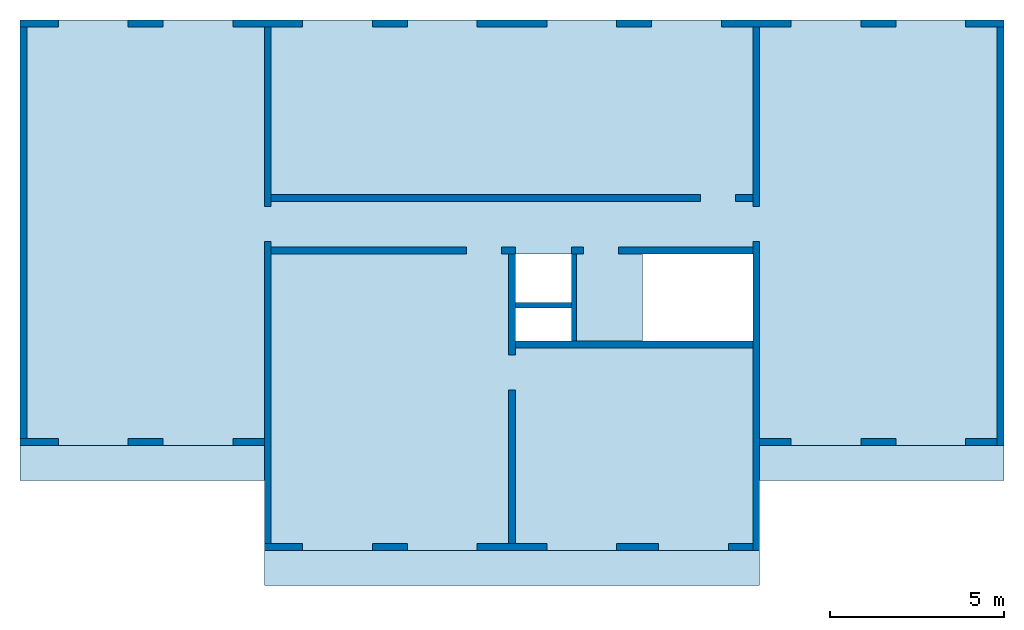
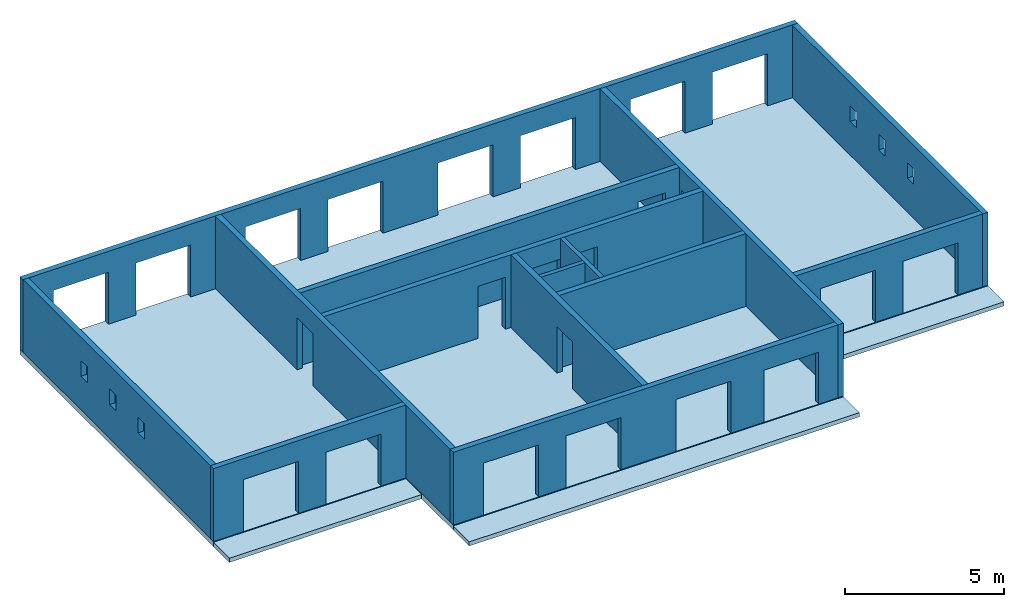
# One storey: 14 walls, 2 slabs, 32 openings.
"""IFC2X3 building model written with IfcOpenShell, lengths in metres."""

from ifc_helpers import new_model, entity, si_unit, converted_unit, derived_unit, direction, frame, frame_2d, origin, origin_2d_with_axis, place, context, subcontext, project, spatial, polyline, rectangle, outline, extrude, material, layer, layer_set, layer_usage, type_object, element, save


model = new_model("IFC2X3")

# Units and contexts
model_context = context("Model", 3, precision=1e-05, world=origin(), true_north=direction((6.12303176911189e-17, 1.0)))
body_context = subcontext(model_context, "Body", "Model", "MODEL_VIEW")
ifc_project = project(units=[si_unit("LENGTHUNIT", "METRE"), si_unit("AREAUNIT", "SQUARE_METRE"), si_unit("VOLUMEUNIT", "CUBIC_METRE"), converted_unit("PLANEANGLEUNIT", "DEGREE", entity("IfcRatioMeasure", 0.0174532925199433), si_unit("PLANEANGLEUNIT", "RADIAN"), dimensions=[0, 0, 0, 0, 0, 0, 0]), si_unit("MASSUNIT", "GRAM", prefix="KILO"), derived_unit("MASSDENSITYUNIT", [(si_unit("MASSUNIT", "GRAM", prefix="KILO"), 1), (si_unit("LENGTHUNIT", "METRE"), -3)]), si_unit("TIMEUNIT", "SECOND"), si_unit("FREQUENCYUNIT", "HERTZ"), si_unit("THERMODYNAMICTEMPERATUREUNIT", "DEGREE_CELSIUS"), derived_unit("THERMALTRANSMITTANCEUNIT", [(si_unit("MASSUNIT", "GRAM", prefix="KILO"), 1), (si_unit("THERMODYNAMICTEMPERATUREUNIT", "KELVIN"), -1), (si_unit("TIMEUNIT", "SECOND"), -3)]), derived_unit("VOLUMETRICFLOWRATEUNIT", [(si_unit("LENGTHUNIT", "METRE"), 3), (si_unit("TIMEUNIT", "SECOND"), -1)]), si_unit("ELECTRICCURRENTUNIT", "AMPERE"), si_unit("ELECTRICVOLTAGEUNIT", "VOLT"), si_unit("POWERUNIT", "WATT"), si_unit("FORCEUNIT", "NEWTON"), si_unit("ILLUMINANCEUNIT", "LUX"), si_unit("LUMINOUSFLUXUNIT", "LUMEN"), si_unit("LUMINOUSINTENSITYUNIT", "CANDELA"), derived_unit("USERDEFINED", [(si_unit("MASSUNIT", "GRAM", prefix="KILO"), -1), (si_unit("LENGTHUNIT", "METRE"), -2), (si_unit("TIMEUNIT", "SECOND"), 3), (si_unit("LUMINOUSFLUXUNIT", "LUMEN"), 1)]), derived_unit("LINEARVELOCITYUNIT", [(si_unit("LENGTHUNIT", "METRE"), 1), (si_unit("TIMEUNIT", "SECOND"), -1)]), si_unit("PRESSUREUNIT", "PASCAL"), derived_unit("USERDEFINED", [(si_unit("LENGTHUNIT", "METRE"), -2), (si_unit("MASSUNIT", "GRAM", prefix="KILO"), 1), (si_unit("TIMEUNIT", "SECOND"), -2)])], contexts=[model_context])

# Site, building, storey
site_placement = place(None, origin())
site = spatial("IfcSite", under=ifc_project, at=site_placement, Name="Default", CompositionType="ELEMENT")
building_placement = place(site_placement, origin())
building = spatial("IfcBuilding", under=site, at=building_placement, CompositionType="ELEMENT")
storey_placement = place(building_placement, frame((0.0, 0.0, 15.0)))
storey = spatial("IfcBuildingStorey", under=building, at=storey_placement, Name="R+5", CompositionType="ELEMENT", Elevation=15.0)

# Slab, openings
ifc_material_1 = material(Name="Béton - Coulé sur place - Béton20")
ifc_layer_1 = layer(ifc_material_1, 0.2)
ifc_layer_set_1 = layer_set([ifc_layer_1], Name="Sol:Dalle pleine 200 mm")
ifc_layer_usage_1 = layer_usage(ifc_layer_set_1, "AXIS3", "POSITIVE", 0.0)
slab_1_placement = place(storey_placement, frame((-12.3073360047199, -6.13818985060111, 0.0)))
slab_1 = element("IfcSlab", 1, at=slab_1_placement, inside=storey, material=ifc_layer_usage_1, Name="Sol:Dalle pleine 200 mm", ObjectType="Sol:Dalle pleine 200 mm", PredefinedType="FLOOR", context=body_context, shape_type="SweptSolid", body=[
    extrude(outline(polyline([(-14.1, 7.59999999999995), (-14.1, -4.60000000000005), (-7.1, -4.60000000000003), (-7.09999999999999, -7.60000000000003), (7.10000000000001, -7.59999999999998), (7.10000000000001, -4.59999999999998), (14.1, -4.59999999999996), (14.1, 7.60000000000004), (-14.1, 7.59999999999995)])), frame((14.1, 7.60000000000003, 0.2), z_axis=(0.0, 0.0, -1.0), x_axis=(-1.0, 0.0, 0.0)), (0.0, 0.0, 1.0), 0.2),
])
opening_1_placement = place(slab_1_placement, frame((15.0, 7.80000000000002, 0.2)))
element("IfcOpeningElement", 2, at=opening_1_placement, cuts=slab_1, Name="Sol:Dalle pleine 200 mm:2", ObjectType="Opening", context=body_context, shape_type="SweptSolid", body=[
    extrude(rectangle(XDim=1.4, YDim=1.6, at=origin_2d_with_axis()), frame((0.0, 0.0, 0.0), z_axis=(0.0, 0.0, -1.0), x_axis=(0.0, -1.0, 0.0)), (0.0, 0.0, 1.0), 0.2),
])
opening_2_placement = place(slab_1_placement, frame((15.0, 6.47500000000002, 0.2)))
element("IfcOpeningElement", 3, at=opening_2_placement, cuts=slab_1, Name="Sol:Dalle pleine 200 mm:3", ObjectType="Opening", context=body_context, shape_type="SweptSolid", body=[
    extrude(rectangle(XDim=0.95, YDim=1.6, at=origin_2d_with_axis()), frame((0.0, 0.0, 0.0), z_axis=(0.0, 0.0, -1.0), x_axis=(0.0, -1.0, 0.0)), (0.0, 0.0, 1.0), 0.2),
])
opening_3_placement = place(slab_1_placement, frame((19.42, 7.25, 0.2)))
element("IfcOpeningElement", 4, at=opening_3_placement, cuts=slab_1, Name="Sol:Dalle pleine 200 mm:4", ObjectType="Opening", context=body_context, shape_type="SweptSolid", body=[
    extrude(rectangle(XDim=3.16, YDim=2.49999999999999, at=origin_2d_with_axis()), frame((0.0, 0.0, 0.0), z_axis=(0.0, 0.0, -1.0), x_axis=(1.0, 0.0, 0.0)), (0.0, 0.0, 1.0), 0.2),
])

# Slab
ifc_layer_2 = layer(ifc_material_1, 0.16)
ifc_layer_set_2 = layer_set([ifc_layer_2], Name="Sol:Balcon 160 mm")
ifc_layer_usage_2 = layer_usage(ifc_layer_set_2, "AXIS3", "POSITIVE", 0.0)
slab_2_placement = place(storey_placement, origin())
element("IfcSlab", 5, at=slab_2_placement, inside=storey, material=ifc_layer_usage_2, Name="Sol:Balcon 160 mm", ObjectType="Sol:Balcon 160 mm", PredefinedType="FLOOR", context=body_context, shape_type="SweptSolid", body=[
    extrude(outline(polyline([(-0.0825000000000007, -0.5), (0.0874999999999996, -0.5), (0.0774999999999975, 0.5), (-0.0825000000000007, 0.5), (-0.0825000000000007, -0.5)])), frame((8.89266399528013, -3.63818985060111, 0.0825000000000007), z_axis=(1.0, 0.0, 0.0), x_axis=(0.0, 0.0, 1.0)), (0.0, 0.0, 1.0), 7.0),
    extrude(outline(polyline([(-0.0825000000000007, -0.5), (0.0874999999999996, -0.5), (0.0774999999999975, 0.5), (-0.0825000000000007, 0.5), (-0.0825000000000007, -0.5)])), frame((-12.3073360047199, -3.63818985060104, 0.0825000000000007), z_axis=(1.0, 0.0, 0.0), x_axis=(0.0, 0.0, 1.0)), (0.0, 0.0, 1.0), 7.0),
    extrude(outline(polyline([(-0.0825000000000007, -0.5), (0.0874999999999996, -0.5), (0.0774999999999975, 0.5), (-0.0825000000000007, 0.5), (-0.0825000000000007, -0.5)])), frame((-5.30733600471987, -6.63818985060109, 0.0825000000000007), z_axis=(1.0, 0.0, 0.0), x_axis=(0.0, 0.0, 1.0)), (0.0, 0.0, 1.0), 14.2),
])

# Wall, openings
ifc_layer_3 = layer(ifc_material_1, 0.2)
ifc_layer_set_3 = layer_set([ifc_layer_3], Name="Mur de base:Générique - 200 mm")
ifc_layer_usage_3 = layer_usage(ifc_layer_set_3, "AXIS2", "NEGATIVE", 0.1)
wall_type_1 = type_object("IfcWallType", Name="Mur de base:Générique - 200 mm", PredefinedType="STANDARD", material=ifc_layer_set_3)
wall_1_placement = place(storey_placement, frame((-12.3073360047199, 8.96181014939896, 0.2)))
wall_1 = element("IfcWallStandardCase", 6, at=wall_1_placement, inside=storey, type_object=wall_type_1, material=ifc_layer_usage_3, Name="Mur de base:Générique - 200 mm", ObjectType="Mur de base:Générique - 200 mm:1044", context=body_context, shape_type="SweptSolid", body=[
    extrude(rectangle(XDim=28.2, YDim=0.2, at=frame_2d((14.1, 3.19189119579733e-16), x_axis=(-1.0, 0.0))), origin(), (0.0, 0.0, 1.0), 2.80000000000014),
])
opening_4_placement = place(wall_1_placement, frame((12.3073360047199, -8.96181014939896, -0.199999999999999)))
element("IfcOpeningElement", 7, at=opening_4_placement, cuts=wall_1, Name="Mur de base:Générique - 200 mm", ObjectType="Opening", context=body_context, shape_type="SweptSolid", body=[
    extrude(rectangle(XDim=2.0, YDim=2.0, at=frame_2d((2.16493489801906e-15, 0.0), x_axis=(1.0, 0.0))), frame((13.7926639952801, 7.53781014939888, 1.2), z_axis=(0.0, 1.0, 0.0), x_axis=(0.0, 0.0, -1.0)), (0.0, 0.0, 1.0), 3.048),
])
opening_5_placement = place(wall_1_placement, frame((12.3073360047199, -8.96181014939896, -0.199999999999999)))
element("IfcOpeningElement", 8, at=opening_5_placement, cuts=wall_1, Name="Mur de base:Générique - 200 mm", ObjectType="Opening", context=body_context, shape_type="SweptSolid", body=[
    extrude(rectangle(XDim=2.0, YDim=2.0, at=frame_2d((0.0, 0.0), x_axis=(0.0, 1.0))), frame((10.7926639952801, 7.33781014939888, 1.2), z_axis=(0.0, 1.0, 0.0), x_axis=(1.0, 0.0, 0.0)), (0.0, 0.0, 1.0), 3.048),
])
opening_6_placement = place(wall_1_placement, frame((12.3073360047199, -8.96181014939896, -0.199999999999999)))
element("IfcOpeningElement", 9, at=opening_6_placement, cuts=wall_1, Name="Mur de base:Générique - 200 mm", ObjectType="Opening", context=body_context, shape_type="SweptSolid", body=[
    extrude(rectangle(XDim=2.0, YDim=2.0, at=frame_2d((2.22044604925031e-15, 0.0), x_axis=(1.0, 0.0))), frame((-10.2073360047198, 7.53781014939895, 1.2), z_axis=(0.0, 1.0, 0.0), x_axis=(0.0, 0.0, -1.0)), (0.0, 0.0, 1.0), 3.048),
])
opening_7_placement = place(wall_1_placement, frame((12.3073360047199, -8.96181014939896, -0.199999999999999)))
element("IfcOpeningElement", 10, at=opening_7_placement, cuts=wall_1, Name="Mur de base:Générique - 200 mm", ObjectType="Opening", context=body_context, shape_type="SweptSolid", body=[
    extrude(rectangle(XDim=2.0, YDim=2.0, at=frame_2d((2.22044604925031e-15, 0.0), x_axis=(1.0, 0.0))), frame((-7.20733600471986, 7.53781014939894, 1.2), z_axis=(0.0, 1.0, 0.0), x_axis=(0.0, 0.0, -1.0)), (0.0, 0.0, 1.0), 3.048),
])
opening_8_placement = place(wall_1_placement, frame((12.3073360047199, -8.96181014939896, -0.199999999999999)))
element("IfcOpeningElement", 11, at=opening_8_placement, cuts=wall_1, Name="Mur de base:Générique - 200 mm", ObjectType="Opening", context=body_context, shape_type="SweptSolid", body=[
    extrude(rectangle(XDim=2.0, YDim=2.0, at=frame_2d((2.22044604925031e-15, 2.22044604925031e-16), x_axis=(1.0, 0.0))), frame((-3.20733600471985, 7.53781014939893, 1.2), z_axis=(0.0, 1.0, 0.0), x_axis=(0.0, 0.0, -1.0)), (0.0, 0.0, 1.0), 3.048),
])
opening_9_placement = place(wall_1_placement, frame((12.3073360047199, -8.96181014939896, -0.199999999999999)))
element("IfcOpeningElement", 12, at=opening_9_placement, cuts=wall_1, Name="Mur de base:Générique - 200 mm", ObjectType="Opening", context=body_context, shape_type="SweptSolid", body=[
    extrude(rectangle(XDim=2.0, YDim=2.0, at=frame_2d((-4.9960036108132e-16, 0.0), x_axis=(0.0, 1.0))), frame((6.79266399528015, 7.3378101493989, 1.2), z_axis=(0.0, 1.0, 0.0), x_axis=(1.0, 0.0, 0.0)), (0.0, 0.0, 1.0), 3.048),
])
opening_10_placement = place(wall_1_placement, frame((12.3073360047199, -8.96181014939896, -0.199999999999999)))
element("IfcOpeningElement", 13, at=opening_10_placement, cuts=wall_1, Name="Mur de base:Générique - 200 mm", ObjectType="Opening", context=body_context, shape_type="SweptSolid", body=[
    extrude(rectangle(XDim=2.0, YDim=2.0, at=frame_2d((-2.22044604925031e-16, 0.0), x_axis=(0.0, 1.0))), frame((3.79266399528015, 7.33781014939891, 1.2), z_axis=(0.0, 1.0, 0.0), x_axis=(1.0, 0.0, 0.0)), (0.0, 0.0, 1.0), 3.048),
])
opening_11_placement = place(wall_1_placement, frame((12.3073360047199, -8.96181014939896, -0.199999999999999)))
element("IfcOpeningElement", 14, at=opening_11_placement, cuts=wall_1, Name="Mur de base:Générique - 200 mm", ObjectType="Opening", context=body_context, shape_type="SweptSolid", body=[
    extrude(rectangle(XDim=2.0, YDim=2.0, at=frame_2d((0.0, 0.0), x_axis=(0.0, 1.0))), frame((-0.207336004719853, 7.33781014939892, 1.2), z_axis=(0.0, 1.0, 0.0), x_axis=(1.0, 0.0, 0.0)), (0.0, 0.0, 1.0), 3.048),
])

ifc_layer_usage_4 = layer_usage(ifc_layer_set_3, "AXIS2", "NEGATIVE", 0.1)
wall_2_placement = place(storey_placement, frame((15.7926639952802, 8.86181014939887, 0.2), z_axis=(0.0, 0.0, 1.0), x_axis=(0.0, -1.0, 0.0)))
wall_2 = element("IfcWallStandardCase", 15, at=wall_2_placement, inside=storey, type_object=wall_type_1, material=ifc_layer_usage_4, Name="Mur de base:Générique - 200 mm", ObjectType="Mur de base:Générique - 200 mm:1044", context=body_context, shape_type="SweptSolid", body=[
    extrude(rectangle(XDim=12.0, YDim=0.200000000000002, at=frame_2d((6.0, 0.0), x_axis=(-1.0, 0.0))), origin(), (0.0, 0.0, 1.0), 2.80000000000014),
])
opening_12_placement = place(wall_2_placement, frame((8.86181014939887, -15.7926639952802, -0.199999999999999), z_axis=(0.0, 0.0, 1.0), x_axis=(0.0, 1.0, 0.0)))
element("IfcOpeningElement", 16, at=opening_12_placement, cuts=wall_2, Name="Mur de base:Générique - 200 mm", ObjectType="Opening", context=body_context, shape_type="SweptSolid", body=[
    extrude(rectangle(XDim=0.6, YDim=0.4, at=frame_2d((0.0, 0.0), x_axis=(0.0, 1.0))), frame((14.1686639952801, 3.21181014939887, 1.8), z_axis=(1.0, 0.0, 0.0), x_axis=(0.0, -1.0, 0.0)), (0.0, 0.0, 1.0), 3.048),
])
opening_13_placement = place(wall_2_placement, frame((8.86181014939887, -15.7926639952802, -0.199999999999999), z_axis=(0.0, 0.0, 1.0), x_axis=(0.0, 1.0, 0.0)))
element("IfcOpeningElement", 17, at=opening_13_placement, cuts=wall_2, Name="Mur de base:Générique - 200 mm", ObjectType="Opening", context=body_context, shape_type="SweptSolid", body=[
    extrude(rectangle(XDim=0.6, YDim=0.400000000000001, at=frame_2d((-8.18789480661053e-16, 0.0), x_axis=(0.0, 1.0))), frame((14.1686639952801, 5.01181014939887, 1.8), z_axis=(1.0, 0.0, 0.0), x_axis=(0.0, -1.0, 0.0)), (0.0, 0.0, 1.0), 3.048),
])
opening_14_placement = place(wall_2_placement, frame((8.86181014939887, -15.7926639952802, -0.199999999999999), z_axis=(0.0, 0.0, 1.0), x_axis=(0.0, 1.0, 0.0)))
element("IfcOpeningElement", 18, at=opening_14_placement, cuts=wall_2, Name="Mur de base:Générique - 200 mm", ObjectType="Opening", context=body_context, shape_type="SweptSolid", body=[
    extrude(rectangle(XDim=0.6, YDim=0.4, at=frame_2d((-6.93889390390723e-17, 0.0), x_axis=(0.0, 1.0))), frame((14.1686639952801, 1.41181014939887, 1.8), z_axis=(1.0, 0.0, 0.0), x_axis=(0.0, -1.0, 0.0)), (0.0, 0.0, 1.0), 3.048),
])

ifc_layer_usage_5 = layer_usage(ifc_layer_set_3, "AXIS2", "NEGATIVE", 0.1)
wall_3_placement = place(storey_placement, frame((15.6926639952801, -3.03818985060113, 0.2), z_axis=(0.0, 0.0, 1.0), x_axis=(-1.0, 0.0, 0.0)))
wall_3 = element("IfcWallStandardCase", 19, at=wall_3_placement, inside=storey, type_object=wall_type_1, material=ifc_layer_usage_5, Name="Mur de base:Générique - 200 mm", ObjectType="Mur de base:Générique - 200 mm:1044", context=body_context, shape_type="SweptSolid", body=[
    extrude(rectangle(XDim=6.8, YDim=0.2, at=frame_2d((3.4, 2.22044604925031e-16), x_axis=(-1.0, 0.0))), origin(), (0.0, 0.0, 1.0), 2.80000000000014),
])
opening_15_placement = place(wall_3_placement, frame((15.6926639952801, -3.03818985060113, -0.199999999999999), z_axis=(0.0, 0.0, 1.0), x_axis=(-1.0, 0.0, 0.0)))
element("IfcOpeningElement", 20, at=opening_15_placement, cuts=wall_3, Name="Mur de base:Générique - 200 mm", ObjectType="Opening", context=body_context, shape_type="SweptSolid", body=[
    extrude(rectangle(XDim=2.0, YDim=2.0, at=frame_2d((0.0, 0.0), x_axis=(0.0, 1.0))), frame((10.7926639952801, -1.41418985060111, 1.2), z_axis=(0.0, -1.0, 0.0), x_axis=(-1.0, 0.0, 0.0)), (0.0, 0.0, 1.0), 3.048),
])
opening_16_placement = place(wall_3_placement, frame((15.6926639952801, -3.03818985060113, -0.199999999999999), z_axis=(0.0, 0.0, 1.0), x_axis=(-1.0, 0.0, 0.0)))
element("IfcOpeningElement", 21, at=opening_16_placement, cuts=wall_3, Name="Mur de base:Générique - 200 mm", ObjectType="Opening", context=body_context, shape_type="SweptSolid", body=[
    extrude(rectangle(XDim=2.0, YDim=2.0, at=frame_2d((0.0, 0.0), x_axis=(0.0, 1.0))), frame((13.7926639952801, -1.41418985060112, 1.2), z_axis=(0.0, -1.0, 0.0), x_axis=(-1.0, 0.0, 0.0)), (0.0, 0.0, 1.0), 3.048),
])

# Wall, opening
ifc_layer_usage_6 = layer_usage(ifc_layer_set_3, "AXIS2", "NEGATIVE", 0.1)
wall_4_placement = place(storey_placement, frame((8.79266399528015, 8.86181014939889, 0.2), z_axis=(0.0, 0.0, 1.0), x_axis=(0.0, -1.0, 0.0)))
wall_4 = element("IfcWallStandardCase", 22, at=wall_4_placement, inside=storey, type_object=wall_type_1, material=ifc_layer_usage_6, Name="Mur de base:Générique - 200 mm", ObjectType="Mur de base:Générique - 200 mm:1044", context=body_context, shape_type="SweptSolid", body=[
    extrude(rectangle(XDim=15.0, YDim=0.2, at=frame_2d((7.5, 0.0), x_axis=(-1.0, 0.0))), origin(), (0.0, 0.0, 1.0), 2.80000000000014),
])
opening_17_placement = place(wall_4_placement, frame((8.86181014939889, -8.79266399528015, -0.199999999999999), z_axis=(0.0, 0.0, 1.0), x_axis=(0.0, 1.0, 0.0)))
element("IfcOpeningElement", 23, at=opening_17_placement, cuts=wall_4, Name="Mur de base:Générique - 200 mm", ObjectType="Opening", context=body_context, shape_type="SweptSolid", body=[
    extrude(rectangle(XDim=2.0, YDim=1.0, at=frame_2d((-2.4980018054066e-16, 0.0), x_axis=(0.0, 1.0))), frame((7.16866399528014, 3.2118101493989, 1.2), z_axis=(1.0, 0.0, 0.0), x_axis=(0.0, -1.0, 0.0)), (0.0, 0.0, 1.0), 3.048),
])

# Wall, openings
ifc_layer_usage_7 = layer_usage(ifc_layer_set_3, "AXIS2", "NEGATIVE", 0.1)
wall_5_placement = place(storey_placement, frame((8.69266399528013, -6.03818985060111, 0.2), z_axis=(0.0, 0.0, 1.0), x_axis=(-1.0, 0.0, 0.0)))
wall_5 = element("IfcWallStandardCase", 24, at=wall_5_placement, inside=storey, type_object=wall_type_1, material=ifc_layer_usage_7, Name="Mur de base:Générique - 200 mm", ObjectType="Mur de base:Générique - 200 mm:1044", context=body_context, shape_type="SweptSolid", body=[
    extrude(rectangle(XDim=14.0, YDim=0.2, at=frame_2d((7.0, 0.0), x_axis=(-1.0, 0.0))), origin(), (0.0, 0.0, 1.0), 2.80000000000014),
])
opening_18_placement = place(wall_5_placement, frame((8.69266399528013, -6.03818985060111, -0.199999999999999), z_axis=(0.0, 0.0, 1.0), x_axis=(-1.0, 0.0, 0.0)))
element("IfcOpeningElement", 25, at=opening_18_placement, cuts=wall_5, Name="Mur de base:Générique - 200 mm", ObjectType="Opening", context=body_context, shape_type="SweptSolid", body=[
    extrude(rectangle(XDim=2.0, YDim=2.0, at=frame_2d((2.16493489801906e-15, 1.11022302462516e-16), x_axis=(1.0, 0.0))), frame((-3.20733600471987, -4.61418985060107, 1.2), z_axis=(0.0, -1.0, 0.0), x_axis=(0.0, 0.0, -1.0)), (0.0, 0.0, 1.0), 3.048),
])
opening_19_placement = place(wall_5_placement, frame((8.69266399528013, -6.03818985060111, -0.199999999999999), z_axis=(0.0, 0.0, 1.0), x_axis=(-1.0, 0.0, 0.0)))
element("IfcOpeningElement", 26, at=opening_19_placement, cuts=wall_5, Name="Mur de base:Générique - 200 mm", ObjectType="Opening", context=body_context, shape_type="SweptSolid", body=[
    extrude(rectangle(XDim=2.0, YDim=2.0, at=frame_2d((2.16493489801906e-15, 0.0), x_axis=(1.0, 0.0))), frame((-0.207336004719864, -4.61418985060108, 1.2), z_axis=(0.0, -1.0, 0.0), x_axis=(0.0, 0.0, -1.0)), (0.0, 0.0, 1.0), 3.048),
])
opening_20_placement = place(wall_5_placement, frame((8.69266399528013, -6.03818985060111, -0.199999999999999), z_axis=(0.0, 0.0, 1.0), x_axis=(-1.0, 0.0, 0.0)))
element("IfcOpeningElement", 27, at=opening_20_placement, cuts=wall_5, Name="Mur de base:Générique - 200 mm", ObjectType="Opening", context=body_context, shape_type="SweptSolid", body=[
    extrude(rectangle(XDim=2.0, YDim=2.0, at=frame_2d((2.16493489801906e-15, 2.22044604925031e-16), x_axis=(1.0, 0.0))), frame((3.79266399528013, -4.61418985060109, 1.2), z_axis=(0.0, -1.0, 0.0), x_axis=(0.0, 0.0, -1.0)), (0.0, 0.0, 1.0), 3.048),
])
opening_21_placement = place(wall_5_placement, frame((8.69266399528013, -6.03818985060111, -0.199999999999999), z_axis=(0.0, 0.0, 1.0), x_axis=(-1.0, 0.0, 0.0)))
element("IfcOpeningElement", 28, at=opening_21_placement, cuts=wall_5, Name="Mur de base:Générique - 200 mm", ObjectType="Opening", context=body_context, shape_type="SweptSolid", body=[
    extrude(rectangle(XDim=2.0, YDim=2.0, at=frame_2d((2.22044604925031e-15, 0.0), x_axis=(1.0, 0.0))), frame((6.99266399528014, -4.6141898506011, 1.2), z_axis=(0.0, -1.0, 0.0), x_axis=(0.0, 0.0, -1.0)), (0.0, 0.0, 1.0), 3.048),
])

# Wall, opening
ifc_layer_usage_8 = layer_usage(ifc_layer_set_3, "AXIS2", "NEGATIVE", 0.1)
wall_6_placement = place(storey_placement, frame((-5.20733600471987, -5.93818985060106, 0.2), z_axis=(0.0, 0.0, 1.0), x_axis=(0.0, 1.0, 0.0)))
wall_6 = element("IfcWallStandardCase", 29, at=wall_6_placement, inside=storey, type_object=wall_type_1, material=ifc_layer_usage_8, Name="Mur de base:Générique - 200 mm", ObjectType="Mur de base:Générique - 200 mm:1044", context=body_context, shape_type="SweptSolid", body=[
    extrude(rectangle(XDim=14.8, YDim=0.2, at=frame_2d((7.4, -1.66533453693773e-16), x_axis=(-1.0, 0.0))), origin(), (0.0, 0.0, 1.0), 2.80000000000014),
])
opening_22_placement = place(wall_6_placement, frame((5.93818985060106, -5.20733600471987, -0.199999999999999), z_axis=(0.0, 0.0, 1.0), x_axis=(0.0, -1.0, 0.0)))
element("IfcOpeningElement", 30, at=opening_22_placement, cuts=wall_6, Name="Mur de base:Générique - 200 mm", ObjectType="Opening", context=body_context, shape_type="SweptSolid", body=[
    extrude(rectangle(XDim=2.0, YDim=1.0, at=frame_2d((2.16493489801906e-15, -2.4980018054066e-16), x_axis=(1.0, 0.0))), frame((-3.78333600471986, 3.21181014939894, 1.2), z_axis=(-1.0, 0.0, 0.0), x_axis=(0.0, 0.0, -1.0)), (0.0, 0.0, 1.0), 3.048),
])

# Wall, openings
ifc_layer_usage_9 = layer_usage(ifc_layer_set_3, "AXIS2", "NEGATIVE", 0.1)
wall_7_placement = place(storey_placement, frame((-5.30733600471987, -3.03818985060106, 0.2), z_axis=(0.0, 0.0, 1.0), x_axis=(-1.0, 0.0, 0.0)))
wall_7 = element("IfcWallStandardCase", 31, at=wall_7_placement, inside=storey, type_object=wall_type_1, material=ifc_layer_usage_9, Name="Mur de base:Générique - 200 mm", ObjectType="Mur de base:Générique - 200 mm:1044", context=body_context, shape_type="SweptSolid", body=[
    extrude(rectangle(XDim=7.0, YDim=0.2, at=frame_2d((3.5, 0.0), x_axis=(-1.0, 0.0))), origin(), (0.0, 0.0, 1.0), 2.80000000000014),
])
opening_23_placement = place(wall_7_placement, frame((-5.30733600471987, -3.03818985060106, -0.199999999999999), z_axis=(0.0, 0.0, 1.0), x_axis=(-1.0, 0.0, 0.0)))
element("IfcOpeningElement", 32, at=opening_23_placement, cuts=wall_7, Name="Mur de base:Générique - 200 mm", ObjectType="Opening", context=body_context, shape_type="SweptSolid", body=[
    extrude(rectangle(XDim=2.0, YDim=2.0, at=frame_2d((1.0547118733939e-15, 0.0), x_axis=(0.0, 1.0))), frame((-10.2073360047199, -1.41418985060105, 1.2), z_axis=(0.0, -1.0, 0.0), x_axis=(-1.0, 0.0, 0.0)), (0.0, 0.0, 1.0), 3.048),
])
opening_24_placement = place(wall_7_placement, frame((-5.30733600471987, -3.03818985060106, -0.199999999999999), z_axis=(0.0, 0.0, 1.0), x_axis=(-1.0, 0.0, 0.0)))
element("IfcOpeningElement", 33, at=opening_24_placement, cuts=wall_7, Name="Mur de base:Générique - 200 mm", ObjectType="Opening", context=body_context, shape_type="SweptSolid", body=[
    extrude(rectangle(XDim=2.0, YDim=2.0, at=frame_2d((-4.9960036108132e-16, 0.0), x_axis=(0.0, 1.0))), frame((-7.20733600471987, -1.41418985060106, 1.2), z_axis=(0.0, -1.0, 0.0), x_axis=(-1.0, 0.0, 0.0)), (0.0, 0.0, 1.0), 3.048),
])

ifc_layer_usage_10 = layer_usage(ifc_layer_set_3, "AXIS2", "NEGATIVE", 0.1)
wall_8_placement = place(storey_placement, frame((-12.2073360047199, -2.93818985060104, 0.2), z_axis=(0.0, 0.0, 1.0), x_axis=(0.0, 1.0, 0.0)))
wall_8 = element("IfcWallStandardCase", 34, at=wall_8_placement, inside=storey, type_object=wall_type_1, material=ifc_layer_usage_10, Name="Mur de base:Générique - 200 mm", ObjectType="Mur de base:Générique - 200 mm:1044", context=body_context, shape_type="SweptSolid", body=[
    extrude(rectangle(XDim=11.8, YDim=0.199999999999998, at=frame_2d((5.9, -1.59594559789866e-16), x_axis=(-1.0, 0.0))), origin(), (0.0, 0.0, 1.0), 2.80000000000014),
])
opening_25_placement = place(wall_8_placement, frame((2.93818985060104, -12.2073360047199, -0.199999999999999), z_axis=(0.0, 0.0, 1.0), x_axis=(0.0, -1.0, 0.0)))
element("IfcOpeningElement", 35, at=opening_25_placement, cuts=wall_8, Name="Mur de base:Générique - 200 mm", ObjectType="Opening", context=body_context, shape_type="SweptSolid", body=[
    extrude(rectangle(XDim=0.600000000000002, YDim=0.4, at=origin_2d_with_axis()), frame((-10.7833360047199, 3.21181014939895, 1.8), z_axis=(-1.0, 0.0, 0.0), x_axis=(0.0, 0.0, -1.0)), (0.0, 0.0, 1.0), 3.048),
])
opening_26_placement = place(wall_8_placement, frame((2.93818985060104, -12.2073360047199, -0.199999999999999), z_axis=(0.0, 0.0, 1.0), x_axis=(0.0, -1.0, 0.0)))
element("IfcOpeningElement", 36, at=opening_26_placement, cuts=wall_8, Name="Mur de base:Générique - 200 mm", ObjectType="Opening", context=body_context, shape_type="SweptSolid", body=[
    extrude(rectangle(XDim=0.600000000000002, YDim=0.400000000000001, at=frame_2d((0.0, 2.77555756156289e-16), x_axis=(1.0, 0.0))), frame((-10.7833360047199, 5.01181014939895, 1.8), z_axis=(-1.0, 0.0, 0.0), x_axis=(0.0, 0.0, -1.0)), (0.0, 0.0, 1.0), 3.048),
])
opening_27_placement = place(wall_8_placement, frame((2.93818985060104, -12.2073360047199, -0.199999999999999), z_axis=(0.0, 0.0, 1.0), x_axis=(0.0, -1.0, 0.0)))
element("IfcOpeningElement", 37, at=opening_27_placement, cuts=wall_8, Name="Mur de base:Générique - 200 mm", ObjectType="Opening", context=body_context, shape_type="SweptSolid", body=[
    extrude(rectangle(XDim=0.600000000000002, YDim=0.4, at=frame_2d((0.0, -6.93889390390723e-17), x_axis=(1.0, 0.0))), frame((-10.7833360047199, 1.41181014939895, 1.8), z_axis=(-1.0, 0.0, 0.0), x_axis=(0.0, 0.0, -1.0)), (0.0, 0.0, 1.0), 3.048),
])

# Wall, opening
ifc_layer_usage_11 = layer_usage(ifc_layer_set_3, "AXIS2", "NEGATIVE", 0.1)
wall_9_placement = place(storey_placement, frame((-5.10733600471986, 3.96181014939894, 0.2)))
wall_9 = element("IfcWallStandardCase", 38, at=wall_9_placement, inside=storey, type_object=wall_type_1, material=ifc_layer_usage_11, Name="Mur de base:Générique - 200 mm", ObjectType="Mur de base:Générique - 200 mm:1044", context=body_context, shape_type="SweptSolid", body=[
    extrude(rectangle(XDim=13.8, YDim=0.2, at=frame_2d((6.9, 2.22044604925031e-16), x_axis=(-1.0, 0.0))), origin(), (0.0, 0.0, 1.0), 2.80000000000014),
])
opening_28_placement = place(wall_9_placement, frame((5.10733600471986, -3.96181014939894, -0.199999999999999)))
element("IfcOpeningElement", 39, at=opening_28_placement, cuts=wall_9, Name="Mur de base:Générique - 200 mm", ObjectType="Opening", context=body_context, shape_type="SweptSolid", body=[
    extrude(rectangle(XDim=2.0, YDim=1.0, at=frame_2d((2.16493489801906e-15, 1.08246744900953e-15), x_axis=(1.0, 0.0))), frame((7.69266399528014, 2.5378101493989, 1.2), z_axis=(0.0, 1.0, 0.0), x_axis=(0.0, 0.0, -1.0)), (0.0, 0.0, 1.0), 3.048),
])

# Wall, openings
ifc_layer_usage_12 = layer_usage(ifc_layer_set_3, "AXIS2", "NEGATIVE", 0.1)
wall_10_placement = place(storey_placement, frame((8.69266399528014, 2.46181014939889, 0.2), z_axis=(0.0, 0.0, 1.0), x_axis=(-1.0, 0.0, 0.0)))
wall_10 = element("IfcWallStandardCase", 40, at=wall_10_placement, inside=storey, type_object=wall_type_1, material=ifc_layer_usage_12, Name="Mur de base:Générique - 200 mm", ObjectType="Mur de base:Générique - 200 mm:1044", context=body_context, shape_type="SweptSolid", body=[
    extrude(rectangle(XDim=13.8, YDim=0.2, at=frame_2d((6.9, 8.32667268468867e-17), x_axis=(-1.0, 0.0))), origin(), (0.0, 0.0, 1.0), 2.80000000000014),
])
opening_29_placement = place(wall_10_placement, frame((8.69266399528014, 2.46181014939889, -0.199999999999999), z_axis=(0.0, 0.0, 1.0), x_axis=(-1.0, 0.0, 0.0)))
element("IfcOpeningElement", 41, at=opening_29_placement, cuts=wall_10, Name="Mur de base:Générique - 200 mm", ObjectType="Opening", context=body_context, shape_type="SweptSolid", body=[
    extrude(rectangle(XDim=2.0, YDim=1.0, at=frame_2d((0.0, 0.0), x_axis=(0.0, 1.0))), frame((0.992663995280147, 4.08581014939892, 1.2), z_axis=(0.0, -1.0, 0.0), x_axis=(-1.0, 0.0, 0.0)), (0.0, 0.0, 1.0), 3.048),
])
opening_30_placement = place(wall_10_placement, frame((8.69266399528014, 2.46181014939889, -0.199999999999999), z_axis=(0.0, 0.0, 1.0), x_axis=(-1.0, 0.0, 0.0)))
element("IfcOpeningElement", 42, at=opening_30_placement, cuts=wall_10, Name="Mur de base:Générique - 200 mm", ObjectType="Opening", context=body_context, shape_type="SweptSolid", body=[
    extrude(rectangle(XDim=2.0, YDim=1.0, at=frame_2d((2.16493489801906e-15, 2.4980018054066e-16), x_axis=(1.0, 0.0))), frame((4.34266399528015, 3.88581014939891, 1.2), z_axis=(0.0, -1.0, 0.0), x_axis=(0.0, 0.0, -1.0)), (0.0, 0.0, 1.0), 3.048),
])
opening_31_placement = place(wall_10_placement, frame((8.69266399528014, 2.46181014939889, -0.199999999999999), z_axis=(0.0, 0.0, 1.0), x_axis=(-1.0, 0.0, 0.0)))
element("IfcOpeningElement", 43, at=opening_31_placement, cuts=wall_10, Name="Mur de base:Générique - 200 mm", ObjectType="Opening", context=body_context, shape_type="SweptSolid", body=[
    extrude(rectangle(XDim=2.0, YDim=1.6, at=frame_2d((2.22044604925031e-15, 1.11022302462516e-16), x_axis=(1.0, 0.0))), frame((2.69266399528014, 3.88581014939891, 1.2), z_axis=(0.0, -1.0, 0.0), x_axis=(0.0, 0.0, -1.0)), (0.0, 0.0, 1.0), 3.048),
])

# Wall, opening
ifc_layer_usage_13 = layer_usage(ifc_layer_set_3, "AXIS2", "NEGATIVE", 0.1)
wall_11_placement = place(storey_placement, frame((1.79266399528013, -5.93818985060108, 0.2), z_axis=(0.0, 0.0, 1.0), x_axis=(0.0, 1.0, 0.0)))
wall_11 = element("IfcWallStandardCase", 44, at=wall_11_placement, inside=storey, type_object=wall_type_1, material=ifc_layer_usage_13, Name="Mur de base:Générique - 200 mm", ObjectType="Mur de base:Générique - 200 mm:1044", context=body_context, shape_type="SweptSolid", body=[
    extrude(rectangle(XDim=8.3, YDim=0.2, at=frame_2d((4.15, 1.11022302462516e-16), x_axis=(-1.0, 0.0))), origin(), (0.0, 0.0, 1.0), 2.80000000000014),
])
opening_32_placement = place(wall_11_placement, frame((5.93818985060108, 1.79266399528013, -0.199999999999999), z_axis=(0.0, 0.0, 1.0), x_axis=(0.0, -1.0, 0.0)))
element("IfcOpeningElement", 45, at=opening_32_placement, cuts=wall_11, Name="Mur de base:Générique - 200 mm", ObjectType="Opening", context=body_context, shape_type="SweptSolid", body=[
    extrude(rectangle(XDim=2.0, YDim=1.0, at=frame_2d((0.0, 0.0), x_axis=(0.0, 1.0))), frame((3.41666399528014, -1.03818985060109, 1.0), z_axis=(-1.0, 0.0, 0.0), x_axis=(0.0, 1.0, 0.0)), (0.0, 0.0, 1.0), 3.048),
])

# Walls
ifc_layer_usage_14 = layer_usage(ifc_layer_set_3, "AXIS2", "NEGATIVE", 0.1)
wall_12_placement = place(storey_placement, frame((1.89266399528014, -0.238189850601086, 0.2)))
element("IfcWallStandardCase", 46, at=wall_12_placement, inside=storey, type_object=wall_type_1, material=ifc_layer_usage_14, Name="Mur de base:Générique - 200 mm", ObjectType="Mur de base:Générique - 200 mm:1044", context=body_context, shape_type="SweptSolid", body=[
    extrude(rectangle(XDim=6.8, YDim=0.2, at=frame_2d((3.4, 2.08166817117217e-17), x_axis=(-1.0, 0.0))), origin(), (0.0, 0.0, 1.0), 2.80000000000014),
])
ifc_material_2 = material(Name="Blocs béton manufacturés")
ifc_layer_4 = layer(ifc_material_2, 0.15)
ifc_layer_set_4 = layer_set([ifc_layer_4], Name="Mur de base:Générique - 150 mm")
ifc_layer_usage_15 = layer_usage(ifc_layer_set_4, "AXIS2", "NEGATIVE", 0.075)
wall_type_2 = type_object("IfcWallType", Name="Mur de base:Générique - 150 mm", PredefinedType="STANDARD", material=ifc_layer_set_4)
wall_13_placement = place(storey_placement, frame((3.56766399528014, 2.36181014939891, 0.2), z_axis=(0.0, 0.0, 1.0), x_axis=(0.0, -1.0, 0.0)))
element("IfcWallStandardCase", 47, at=wall_13_placement, inside=storey, type_object=wall_type_2, material=ifc_layer_usage_15, Name="Mur de base:Générique - 150 mm", ObjectType="Mur de base:Générique - 150 mm", context=body_context, shape_type="SweptSolid", body=[
    extrude(rectangle(XDim=2.5, YDim=0.149999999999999, at=frame_2d((1.25, -1.59594559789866e-16), x_axis=(-1.0, 0.0))), origin(), (0.0, 0.0, 1.0), 2.80000000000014),
])
ifc_layer_usage_16 = layer_usage(ifc_layer_set_4, "AXIS2", "NEGATIVE", 0.075)
wall_14_placement = place(storey_placement, frame((1.89266399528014, 0.886810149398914, 0.0)))
element("IfcWallStandardCase", 48, at=wall_14_placement, inside=storey, type_object=wall_type_2, material=ifc_layer_usage_16, Name="Mur de base:Générique - 150 mm", ObjectType="Mur de base:Générique - 150 mm", context=body_context, shape_type="SweptSolid", body=[
    extrude(rectangle(XDim=1.6, YDim=0.15, at=frame_2d((0.8, -3.46944695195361e-17), x_axis=(-1.0, 0.0))), origin(), (0.0, 0.0, 1.0), 3.00000000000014),
])

save(model, "model.ifc")
